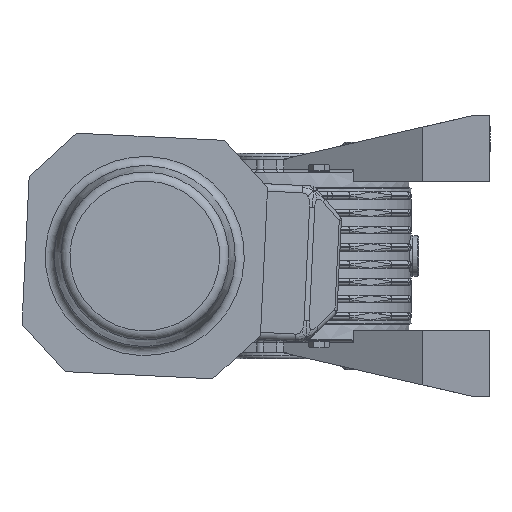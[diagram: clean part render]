
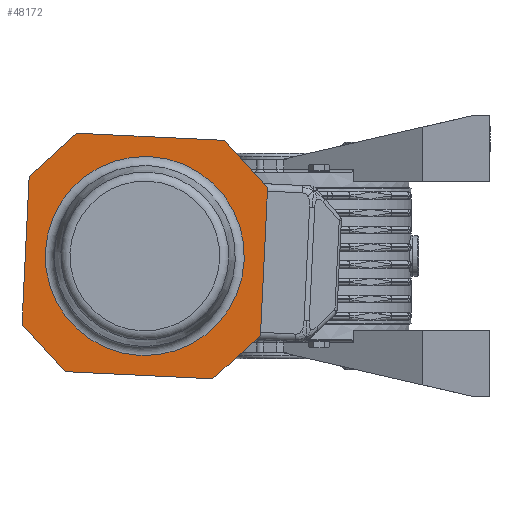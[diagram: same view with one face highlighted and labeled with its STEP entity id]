
A CAD part, left-side view. The second image highlights one B-rep face of the part: STEP entity #48172.
In plain terms, the highlighted planar face has unit normal (-1, 0, 0) as drawn and (1, 0, 0) by its records, which use the part's own axes.
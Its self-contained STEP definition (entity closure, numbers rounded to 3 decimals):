
#48066=CARTESIAN_POINT('',(209.0,0.,54.212));
#48067=VERTEX_POINT('',#48066);
#48068=CARTESIAN_POINT('',(209.0,0.0,0.0));
#48069=DIRECTION('',(1.0,0.0,0.0));
#48070=DIRECTION('',(0.0,0.0,-1.0));
#48071=AXIS2_PLACEMENT_3D('',#48068,#48069,#48070);
#48072=CIRCLE('',#48071,54.212);
#48073=EDGE_CURVE('',#48067,#48067,#48072,.T.);
#48098=CARTESIAN_POINT('',(209.0,28.6,0.0));
#48099=DIRECTION('',(1.0,0.0,0.0));
#48100=DIRECTION('',(0.0,0.0,-1.0));
#48101=AXIS2_PLACEMENT_3D('',#48098,#48099,#48100);
#48102=PLANE('',#48101);
#48103=CARTESIAN_POINT('',(209.0,-65.0,40.251));
#48104=VERTEX_POINT('',#48103);
#48105=CARTESIAN_POINT('',(209.0,-40.251,65.0));
#48106=VERTEX_POINT('',#48105);
#48107=CARTESIAN_POINT('',(209.0,-65.0,40.251));
#48108=DIRECTION('',(0.0,0.707,0.707));
#48109=VECTOR('',#48108,35.);
#48110=LINE('',#48107,#48109);
#48111=EDGE_CURVE('',#48104,#48106,#48110,.T.);
#48112=ORIENTED_EDGE('',*,*,#48111,.F.);
#48113=CARTESIAN_POINT('',(209.0,-65.0,-40.251));
#48114=VERTEX_POINT('',#48113);
#48115=CARTESIAN_POINT('',(209.0,-65.0,-40.251));
#48116=DIRECTION('',(0.0,0.0,1.0));
#48117=VECTOR('',#48116,80.503);
#48118=LINE('',#48115,#48117);
#48119=EDGE_CURVE('',#48114,#48104,#48118,.T.);
#48120=ORIENTED_EDGE('',*,*,#48119,.F.);
#48121=CARTESIAN_POINT('',(209.0,-40.251,-65.0));
#48122=VERTEX_POINT('',#48121);
#48123=CARTESIAN_POINT('',(209.0,-40.251,-65.0));
#48124=DIRECTION('',(0.0,-0.707,0.707));
#48125=VECTOR('',#48124,35.);
#48126=LINE('',#48123,#48125);
#48127=EDGE_CURVE('',#48122,#48114,#48126,.T.);
#48128=ORIENTED_EDGE('',*,*,#48127,.F.);
#48129=CARTESIAN_POINT('',(209.0,40.251,-65.0));
#48130=VERTEX_POINT('',#48129);
#48131=CARTESIAN_POINT('',(209.0,40.251,-65.0));
#48132=DIRECTION('',(0.0,-1.0,0.0));
#48133=VECTOR('',#48132,80.503);
#48134=LINE('',#48131,#48133);
#48135=EDGE_CURVE('',#48130,#48122,#48134,.T.);
#48136=ORIENTED_EDGE('',*,*,#48135,.F.);
#48137=CARTESIAN_POINT('',(209.0,65.0,-40.251));
#48138=VERTEX_POINT('',#48137);
#48139=CARTESIAN_POINT('',(209.0,65.0,-40.251));
#48140=DIRECTION('',(0.0,-0.707,-0.707));
#48141=VECTOR('',#48140,35.0);
#48142=LINE('',#48139,#48141);
#48143=EDGE_CURVE('',#48138,#48130,#48142,.T.);
#48144=ORIENTED_EDGE('',*,*,#48143,.F.);
#48145=CARTESIAN_POINT('',(209.0,65.0,40.251));
#48146=VERTEX_POINT('',#48145);
#48147=CARTESIAN_POINT('',(209.0,65.0,40.251));
#48148=DIRECTION('',(0.0,0.0,-1.0));
#48149=VECTOR('',#48148,80.503);
#48150=LINE('',#48147,#48149);
#48151=EDGE_CURVE('',#48146,#48138,#48150,.T.);
#48152=ORIENTED_EDGE('',*,*,#48151,.F.);
#48153=CARTESIAN_POINT('',(209.0,40.251,65.0));
#48154=VERTEX_POINT('',#48153);
#48155=CARTESIAN_POINT('',(209.0,40.251,65.0));
#48156=DIRECTION('',(0.0,0.707,-0.707));
#48157=VECTOR('',#48156,35.0);
#48158=LINE('',#48155,#48157);
#48159=EDGE_CURVE('',#48154,#48146,#48158,.T.);
#48160=ORIENTED_EDGE('',*,*,#48159,.F.);
#48161=CARTESIAN_POINT('',(209.0,-40.251,65.0));
#48162=DIRECTION('',(0.0,1.0,0.0));
#48163=VECTOR('',#48162,80.503);
#48164=LINE('',#48161,#48163);
#48165=EDGE_CURVE('',#48106,#48154,#48164,.T.);
#48166=ORIENTED_EDGE('',*,*,#48165,.F.);
#48167=EDGE_LOOP('',(#48112,#48120,#48128,#48136,#48144,#48152,#48160,#48166));
#48168=FACE_OUTER_BOUND('',#48167,.T.);
#48169=ORIENTED_EDGE('',*,*,#48073,.F.);
#48170=EDGE_LOOP('',(#48169));
#48171=FACE_BOUND('',#48170,.T.);
#48172=ADVANCED_FACE('',(#48168,#48171),#48102,.T.);
